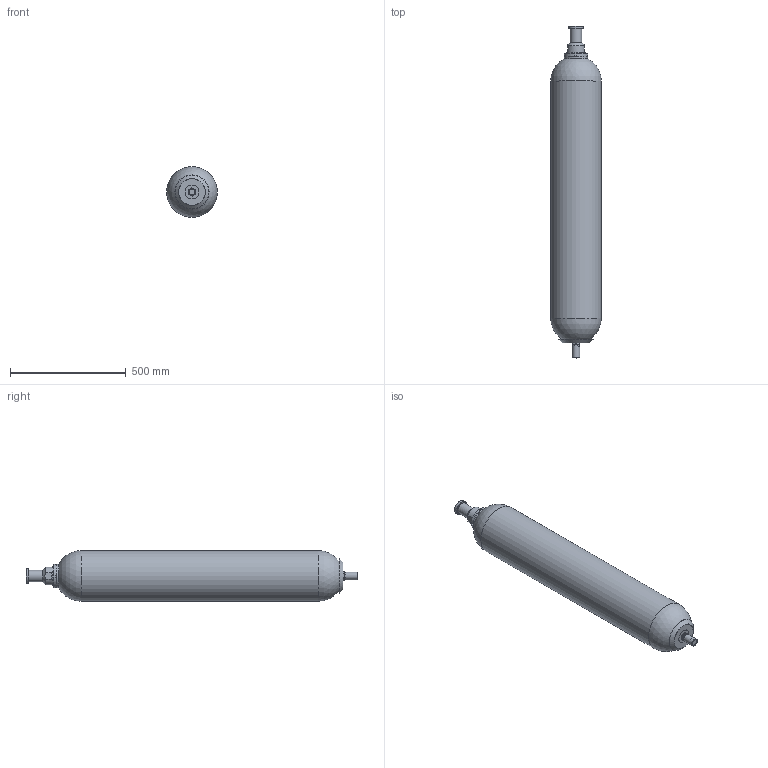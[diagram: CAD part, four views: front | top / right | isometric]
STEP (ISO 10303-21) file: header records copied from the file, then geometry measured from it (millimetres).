
FILE_DESCRIPTION((''),'2;1');
FILE_NAME('F:\STEP\ALLEGE\GAMME_EHVF_350&330&250bar\EHVF_32_330_90.stp','2011-03-04T10:35:01',('laurent.simeon'),(''),'Autodesk Inventor 2011','Autodesk Inventor 2011','');
FILE_SCHEMA(('AUTOMOTIVE_DESIGN { 1 0 10303 214 1 1 1 1 }'));
Length unit declared in the file: millimetre
Products named in the file (39): EHVF_32_330_90; CA108363-00190; PF108368-05200; VA108479-01626; VA108473-01626; VA108439-01600; VA108437-01600; PI108438-01600; RE100758-01200; JT104172-00023; JP102452-00026; ET106134-02600; BOUCHON DE VALVE; BO100759-02600; JP101164-00020; JOINT PLAT; BP102851-00200; BOUCHON DE PROTECTION; BOUCHON PLASTIQUE; EC102958-00200; BC110335-00220; BE105544-00200; EC100990-00200; BM110333-00200; CB110083-00200
Assembly tree (38 placements, depth 5):
  EHVF_32_330_90
    CA108363-00190
      CA108363-00190
    PF108368-05200
      PF108368-05200
    VA108479-01626
      VA108473-01626
        VA108439-01600
          VA108439-01600
        VA108437-01600
          VA108437-01600
        PI108438-01600
          PI108438-01600
        RE100758-01200
          RE100758-01200
        JT104172-00023
          JT104172-00023
        JP102452-00026
          JP102452-00026
        ET106134-02600
          ET106134-02600
      BOUCHON DE VALVE
        BO100759-02600
          BO100759-02600
        JP101164-00020
          JOINT PLAT
    BP102851-00200
      BOUCHON DE PROTECTION
      BOUCHON PLASTIQUE
    EC102958-00200
      EC102958-00200
    BC110335-00220
      BE105544-00200
        BE105544-00200
      EC100990-00200
        EC100990-00200
      BM110333-00200
        CB110083-00200
          CB110083-00200
Bounding box: 219.1 x 1437.2 x 219.1 mm (x, y, z)
Volume: 7715716.1 mm3; surface area: 1797539.9 mm2
Topology: 23 solids, 23 shells, 682 faces, 1625 edges, 995 vertices
Faces by surface type: bspline 207, cylinder 186, plane 150, cone 79, torus 56, sphere 4
Full cylindrical faces by diameter (mm): 0.8 x1, 1.7 x1, 2 x1, 2.2 x1, 3.8 x1, 3.9 x1, 4.6 x1, 6.2 x1, 6.5 x1, 9 x3, 10 x1, 11.1 x1, 11.33 x1, 12 x1, 12.667 x1, 13 x8, 14.46 x1, 15.83 x1, 16 x2, 18 x1, 20 x1, 20.68 x1, 22 x1, 22.5 x1, 25 x1, 28.5 x2, 29.5 x1, 30.05 x1, 31 x1, 33.6 x1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
Entity records: 30076 total; most frequent: CARTESIAN_POINT 15332, ORIENTED_EDGE 2870, DIRECTION 2586, EDGE_CURVE 1435, AXIS2_PLACEMENT_3D 1137, VERTEX_POINT 937, EDGE_LOOP 894, FACE_OUTER_BOUND 681
